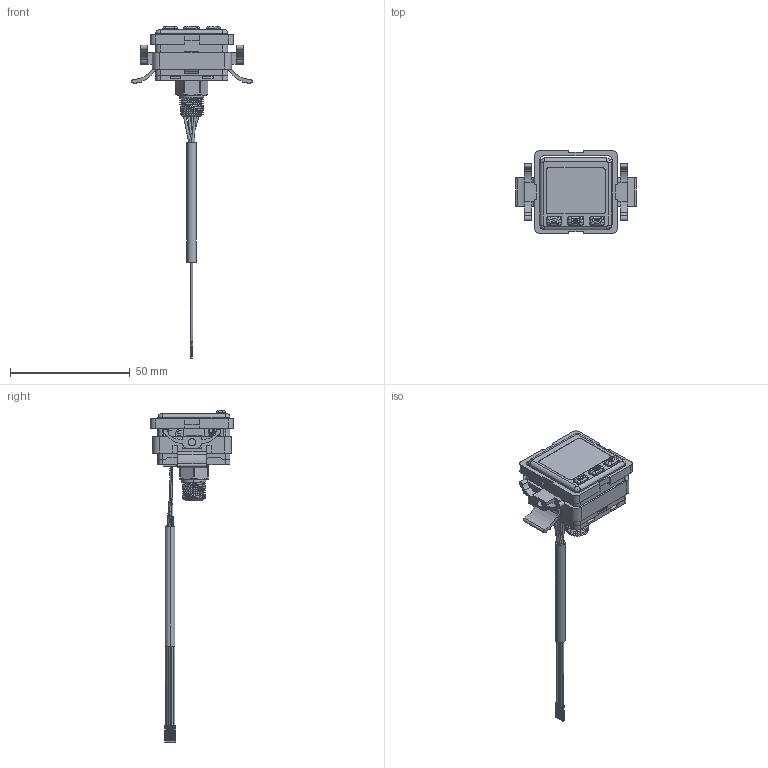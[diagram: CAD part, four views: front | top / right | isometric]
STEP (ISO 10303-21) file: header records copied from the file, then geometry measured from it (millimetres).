
FILE_DESCRIPTION((''),'2;1');
FILE_NAME('KP48E_PA-C','2024-12-12T',('tommy'),(''),'CREO PARAMETRIC BY PTC INC, 2014500','CREO PARAMETRIC BY PTC INC, 2014500','');
FILE_SCHEMA(('CONFIG_CONTROL_DESIGN'));
Products named in the file (1): KP48E_PA-C
Bounding box: 50.4 x 34.4 x 138.55 mm (x, y, z)
Volume: 11774 mm3; surface area: 19182.2 mm2
Topology: 1 solids, 1 shells, 3047 faces, 8905 edges, 5746 vertices
Faces by surface type: plane 1850, cylinder 622, bspline 254, extrusion 216, cone 105
Entity records: 144620 total; most frequent: CARTESIAN_POINT 66627, ORIENTED_EDGE 17746, DIRECTION 13927, EDGE_CURVE 8873, VECTOR 6083, LINE 5867, VERTEX_POINT 5746, AXIS2_PLACEMENT_3D 3922
